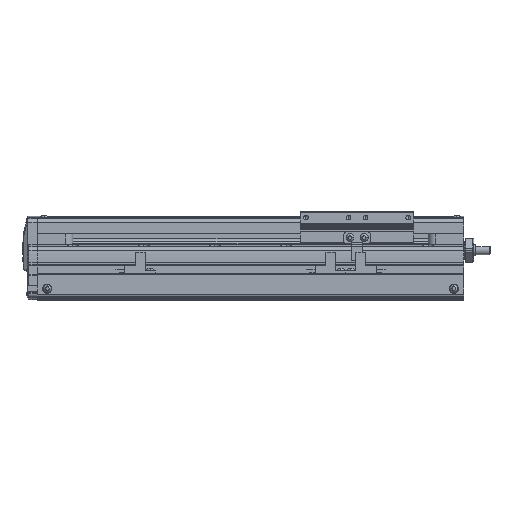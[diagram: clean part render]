
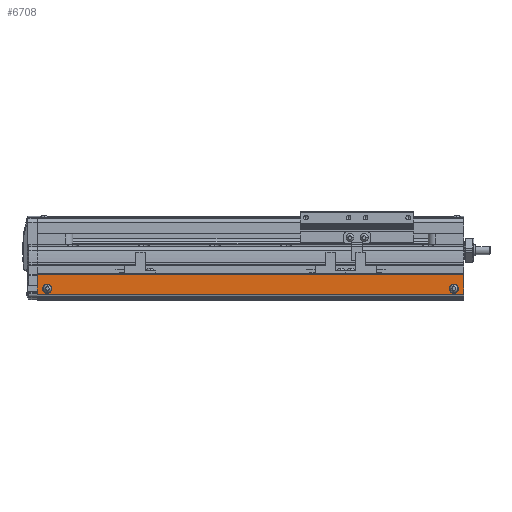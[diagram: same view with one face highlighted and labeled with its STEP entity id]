
A CAD part, left-side view. The second image highlights one B-rep face of the part: STEP entity #6708.
In plain terms, the highlighted planar face has unit normal (-1, 0, 0).
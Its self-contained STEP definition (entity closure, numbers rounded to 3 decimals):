
#6708=ADVANCED_FACE('',(#13332,#13333,#13334),#13335,.F.);
#13332=FACE_BOUND('',#20851,.T.);
#13333=FACE_BOUND('',#20852,.T.);
#13334=FACE_OUTER_BOUND('',#20853,.T.);
#13335=PLANE('',#20854);
#20851=EDGE_LOOP('',(#39632,#39633));
#20852=EDGE_LOOP('',(#39634,#39635));
#20853=EDGE_LOOP('',(#39636,#39637,#39638,#39639));
#20854=AXIS2_PLACEMENT_3D('',#39640,#39641,#39642);
#39632=ORIENTED_EDGE('',*,*,#43205,.F.);
#39633=ORIENTED_EDGE('',*,*,#41640,.F.);
#39634=ORIENTED_EDGE('',*,*,#46237,.F.);
#39635=ORIENTED_EDGE('',*,*,#47474,.F.);
#39636=ORIENTED_EDGE('',*,*,#41409,.F.);
#39637=ORIENTED_EDGE('',*,*,#47410,.F.);
#39638=ORIENTED_EDGE('',*,*,#42866,.F.);
#39639=ORIENTED_EDGE('',*,*,#44681,.T.);
#39640=CARTESIAN_POINT('',(251.5,465.,-23.942));
#39641=DIRECTION('',(1.,0.,0.));
#39642=DIRECTION('',(0.,0.,1.));
#41409=EDGE_CURVE('',#49856,#49858,#49859,.T.);
#41640=EDGE_CURVE('',#50249,#50243,#50251,.T.);
#42866=EDGE_CURVE('',#52197,#52199,#52200,.T.);
#43205=EDGE_CURVE('',#50243,#50249,#52729,.T.);
#44681=EDGE_CURVE('',#52197,#49858,#54968,.T.);
#46237=EDGE_CURVE('',#57131,#57133,#57134,.T.);
#47410=EDGE_CURVE('',#52199,#49856,#58467,.T.);
#47474=EDGE_CURVE('',#57133,#57131,#58534,.T.);
#49856=VERTEX_POINT('',#61763);
#49858=VERTEX_POINT('',#61765);
#49859=LINE('',#61766,#61767);
#50243=VERTEX_POINT('',#62341);
#50249=VERTEX_POINT('',#62357);
#50251=CIRCLE('',#62360,3.25);
#52197=VERTEX_POINT('',#65129);
#52199=VERTEX_POINT('',#65131);
#52200=LINE('',#65132,#65133);
#52729=CIRCLE('',#65904,3.25);
#54968=LINE('',#69118,#69119);
#57131=VERTEX_POINT('',#72400);
#57133=VERTEX_POINT('',#72403);
#57134=CIRCLE('',#72404,3.25);
#58467=LINE('',#74230,#74231);
#58534=CIRCLE('',#74317,3.25);
#61763=CARTESIAN_POINT('',(251.5,165.,-17.02));
#61765=CARTESIAN_POINT('',(251.5,165.,-30.864));
#61766=CARTESIAN_POINT('',(251.5,165.,-30.864));
#61767=VECTOR('',#76062,10.0);
#62341=CARTESIAN_POINT('',(251.5,461.25,-27.));
#62357=CARTESIAN_POINT('',(251.5,454.75,-27.));
#62360=AXIS2_PLACEMENT_3D('',#76336,#76337,#76338);
#65129=CARTESIAN_POINT('',(251.5,465.,-30.864));
#65131=CARTESIAN_POINT('',(251.5,465.,-17.02));
#65132=CARTESIAN_POINT('',(251.5,465.,-30.864));
#65133=VECTOR('',#77685,10.0);
#65904=AXIS2_PLACEMENT_3D('',#78046,#78047,#78048);
#69118=CARTESIAN_POINT('',(251.5,465.,-30.864));
#69119=VECTOR('',#79841,10.0);
#72400=CARTESIAN_POINT('',(251.5,168.75,-27.));
#72403=CARTESIAN_POINT('',(251.5,175.25,-27.));
#72404=AXIS2_PLACEMENT_3D('',#81592,#81593,#81594);
#74230=CARTESIAN_POINT('',(251.5,465.,-17.02));
#74231=VECTOR('',#82563,10.0);
#74317=AXIS2_PLACEMENT_3D('',#82601,#82602,#82603);
#76062=DIRECTION('',(0.,0.,-1.));
#76336=CARTESIAN_POINT('',(251.5,458.,-27.));
#76337=DIRECTION('',(-1.,0.,0.));
#76338=DIRECTION('',(0.,1.0,0.));
#77685=DIRECTION('',(0.,0.,1.));
#78046=CARTESIAN_POINT('',(251.5,458.,-27.));
#78047=DIRECTION('',(-1.,0.,0.));
#78048=DIRECTION('',(0.,1.0,0.));
#79841=DIRECTION('',(0.,-1.0,0.));
#81592=CARTESIAN_POINT('',(251.5,172.,-27.));
#81593=DIRECTION('',(-1.,0.,0.));
#81594=DIRECTION('',(0.,-1.0,0.));
#82563=DIRECTION('',(0.,-1.0,0.));
#82601=CARTESIAN_POINT('',(251.5,172.,-27.));
#82602=DIRECTION('',(-1.,0.,0.));
#82603=DIRECTION('',(0.,-1.0,0.));
